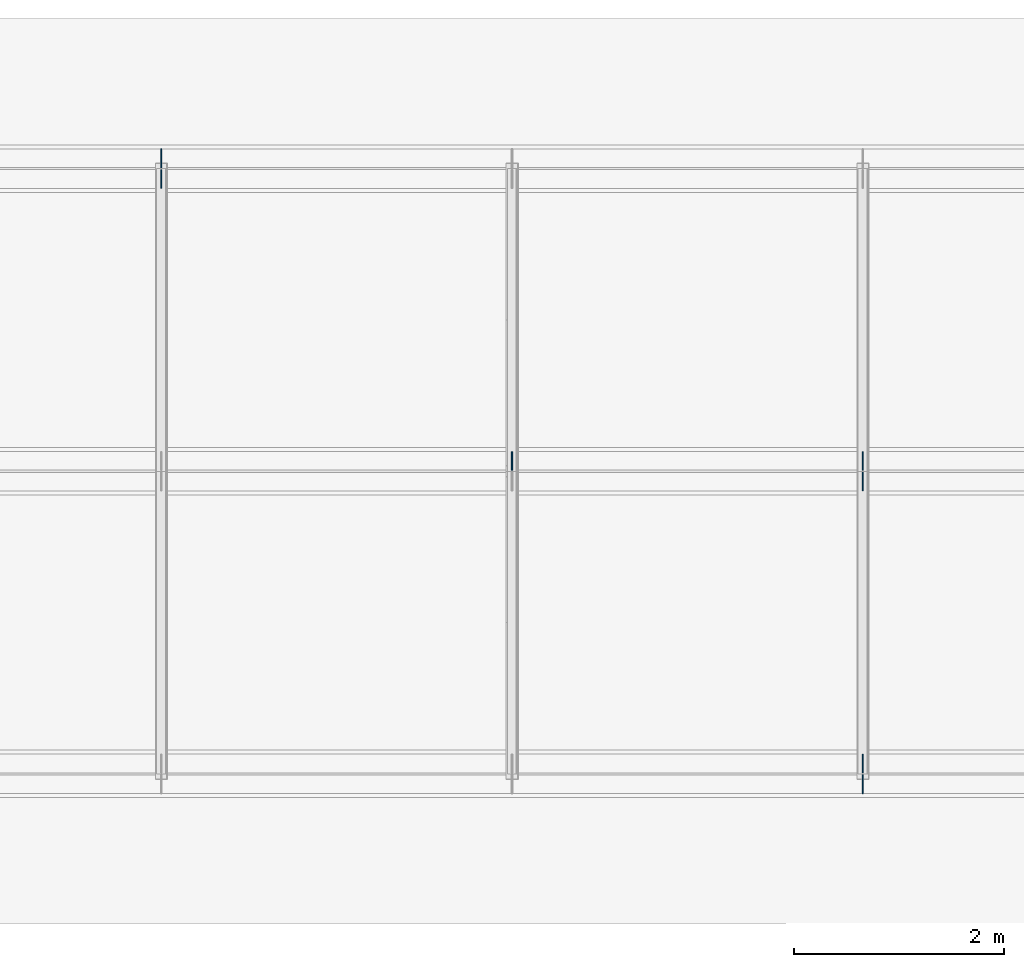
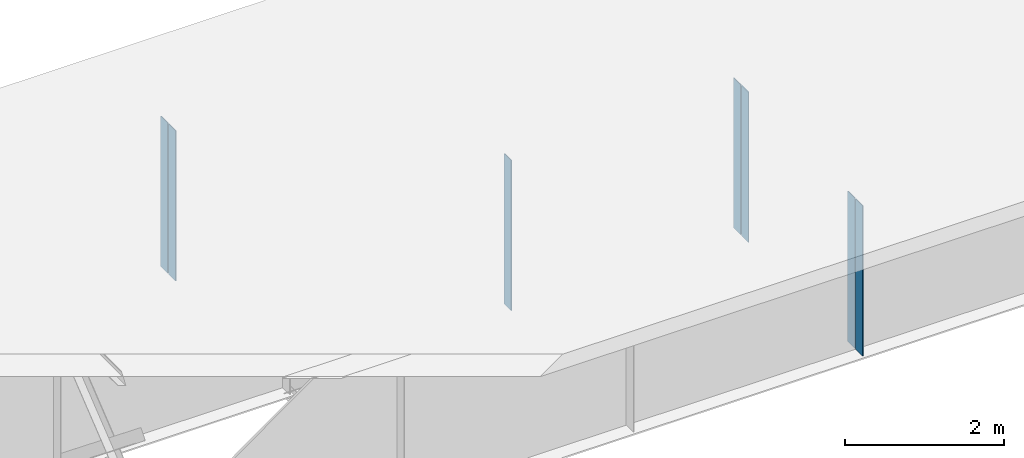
# One storey, part 9 of 12: 7 plates.
"""IFC4 building model written with IfcOpenShell, lengths in metres."""

from ifc_helpers import new_model, si_unit, frame, origin, origin_with_axes, origin_2d_with_axis, place, context, subcontext, project, spatial, rectangle, extrude, element, save


model = new_model("IFC4")

# Units and contexts
model_context = context("Model", 3, precision=1e-05, world=origin())
body_context = subcontext(model_context, "Body", "Model", "MODEL_VIEW")
ifc_project = project(units=[si_unit("LENGTHUNIT", "METRE"), si_unit("AREAUNIT", "SQUARE_METRE"), si_unit("VOLUMEUNIT", "CUBIC_METRE"), si_unit("PLANEANGLEUNIT", "RADIAN")], contexts=[model_context])

# Site, building, storey
site_placement = place(None, origin_with_axes())
site = spatial("IfcSite", under=ifc_project, at=site_placement, Name="Default Site")
building_placement = place(site_placement, origin_with_axes())
building = spatial("IfcBuilding", under=site, at=building_placement, Name="Bridge Structure")
storey_placement = place(building_placement, origin_with_axes())
storey = spatial("IfcBuildingStorey", under=building, at=storey_placement, Name="Superstructure")

# Plates
for number, where, z_axis, x_axis, name in (
    (1, (23.331, -2.77625, -1.155), (0.0, 0.0, 1.0), (1.0, 0.0, 0.0), "Intermediate Stiffener 1"),
    (2, (23.331, -2.97375, -1.155), (0.0, 0.0, 1.0), (1.0, 0.0, 0.0), "Intermediate Stiffener 1"),
    (3, (19.998, 0.09875, -1.155), (0.0, 0.0, 1.0), (1.0, 0.0, 0.0), "Intermediate Stiffener 2"),
    (4, (23.331, 0.09875, -1.155), (0.0, 0.0, 1.0), (1.0, 0.0, 0.0), "Intermediate Stiffener 2"),
    (5, (23.331, -0.09875, -1.155), (0.0, 0.0, 1.0), (1.0, 0.0, 0.0), "Intermediate Stiffener 2"),
    (6, (16.665, 2.97375, -1.155), (0.0, 0.0, 1.0), (1.0, 0.0, 0.0), "Intermediate Stiffener 3"),
    (7, (16.665, 2.77625, -1.155), (0.0, 0.0, 1.0), (1.0, 0.0, 0.0), "Intermediate Stiffener 3"),
):
    element("IfcPlate", number, at=place(storey_placement, frame(where, z_axis=z_axis, x_axis=x_axis)), inside=storey, Name=name, context=body_context, shape_type="SweptSolid", body=[
        extrude(rectangle(XDim=0.012, YDim=0.1775, at=origin_2d_with_axis()), origin_with_axes(), (0.0, 0.0, 1.0), 2.31),
    ])

save(model, "model.ifc")
